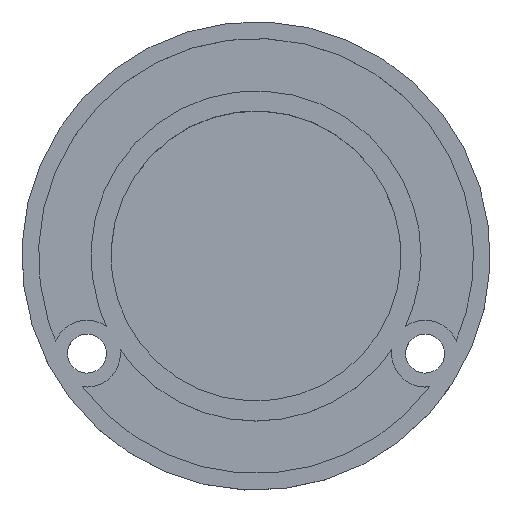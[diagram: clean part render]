
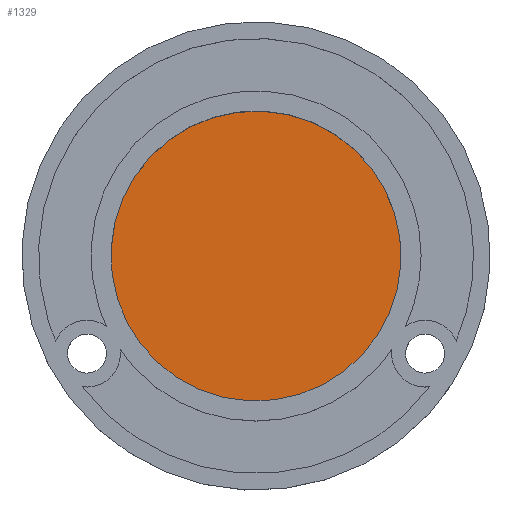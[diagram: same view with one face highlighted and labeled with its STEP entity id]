
A CAD part, top view. The second image highlights one B-rep face of the part: STEP entity #1329.
In plain terms, the highlighted planar face has unit normal (0, 0, 1) as drawn and (0, 0, -1) by its records, which use the part's own axes.
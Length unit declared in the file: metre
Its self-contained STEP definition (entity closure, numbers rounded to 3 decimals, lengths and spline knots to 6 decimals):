
#128 = DIRECTION ( 'NONE',  ( 0., 0., -1. ) ) ;
#278 = CIRCLE ( 'NONE', #1165, 0.013 ) ;
#317 = CARTESIAN_POINT ( 'NONE',  ( 0., 0.013, 0.01 ) ) ;
#424 = ORIENTED_EDGE ( 'NONE', *, *, #1333, .F. ) ;
#454 = DIRECTION ( 'NONE',  ( 0., 0., 1. ) ) ;
#455 = DIRECTION ( 'NONE',  ( 0., 0., 1. ) ) ;
#462 = CARTESIAN_POINT ( 'NONE',  ( 0.013156, -0.013156, 0.01 ) ) ;
#490 = VERTEX_POINT ( 'NONE', #1082 ) ;
#574 = DIRECTION ( 'NONE',  ( 0., 1., 0. ) ) ;
#582 = PLANE ( 'NONE',  #1054 ) ;
#677 = CARTESIAN_POINT ( 'NONE',  ( 0., 0., 0.01 ) ) ;
#748 = FACE_OUTER_BOUND ( 'NONE', #778, .T. ) ;
#778 = EDGE_LOOP ( 'NONE', ( #1213, #424 ) ) ;
#906 = DIRECTION ( 'NONE',  ( 0., 1., 0. ) ) ;
#1054 = AXIS2_PLACEMENT_3D ( 'NONE', #462, #128, #1503 ) ;
#1082 = CARTESIAN_POINT ( 'NONE',  ( 0., -0.013, 0.01 ) ) ;
#1125 = CIRCLE ( 'NONE', #1487, 0.013 ) ;
#1142 = CARTESIAN_POINT ( 'NONE',  ( 0., 0., 0.01 ) ) ;
#1165 = AXIS2_PLACEMENT_3D ( 'NONE', #1142, #454, #574 ) ;
#1213 = ORIENTED_EDGE ( 'NONE', *, *, #1243, .F. ) ;
#1243 = EDGE_CURVE ( 'NONE', #1295, #490, #278, .T. ) ;
#1295 = VERTEX_POINT ( 'NONE', #317 ) ;
#1329 = ADVANCED_FACE ( 'NONE', ( #748 ), #582, .T. ) ;
#1333 = EDGE_CURVE ( 'NONE', #490, #1295, #1125, .T. ) ;
#1487 = AXIS2_PLACEMENT_3D ( 'NONE', #677, #455, #906 ) ;
#1503 = DIRECTION ( 'NONE',  ( -1., 0., 0. ) ) ;
